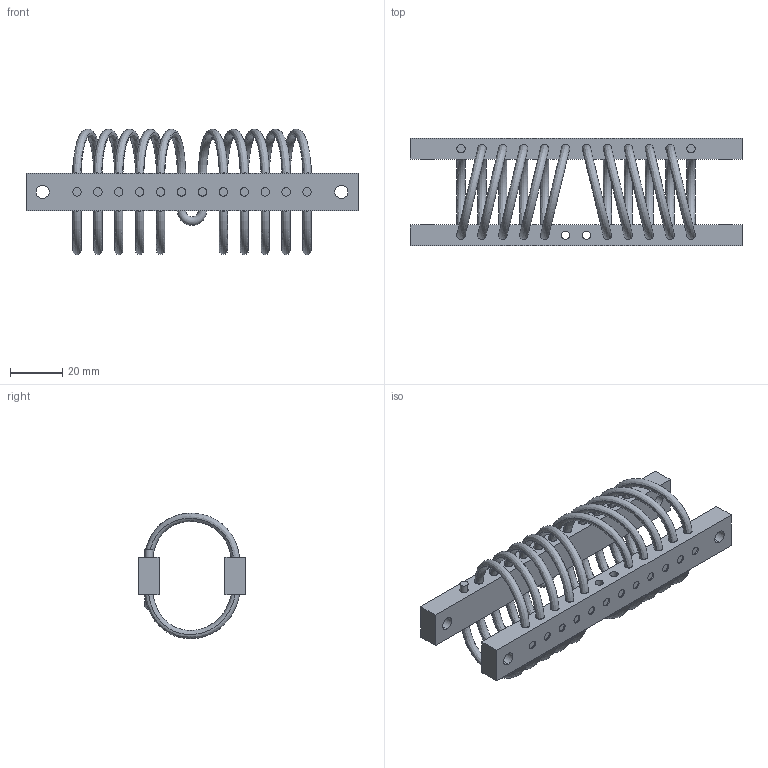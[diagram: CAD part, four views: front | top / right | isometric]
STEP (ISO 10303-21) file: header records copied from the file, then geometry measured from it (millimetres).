
FILE_DESCRIPTION (( 'STEP AP214' ), '1' );
FILE_NAME ('WR4-700-10DM.STEP', '2018-12-07T09:51:18', ( 'user' ), ( 'Microsoft' ), 'SwSTEP 2.0', 'SolidWorks 2016', '' );
FILE_SCHEMA (( 'AUTOMOTIVE_DESIGN' ));
Length unit declared in the file: millimetre
Products named in the file (1): WR4-700-10DM
Bounding box: 127 x 41 x 47.97 mm (x, y, z)
Volume: 35898.1 mm3; surface area: 28974.9 mm2
Topology: 25 solids, 25 shells, 316 faces, 702 edges, 460 vertices
Faces by surface type: cylinder 192, plane 82, bspline 40, torus 2
Entity records: 20730 total; most frequent: CARTESIAN_POINT 13459, ORIENTED_EDGE 1404, DIRECTION 1382, EDGE_CURVE 702, AXIS2_PLACEMENT_3D 583, VERTEX_POINT 460, EDGE_LOOP 396, ADVANCED_FACE 316
